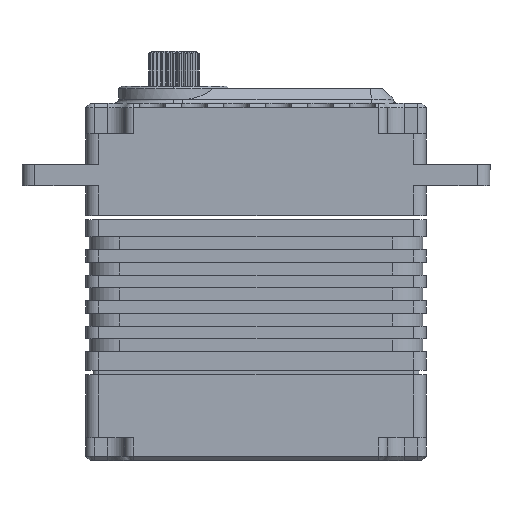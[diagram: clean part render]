
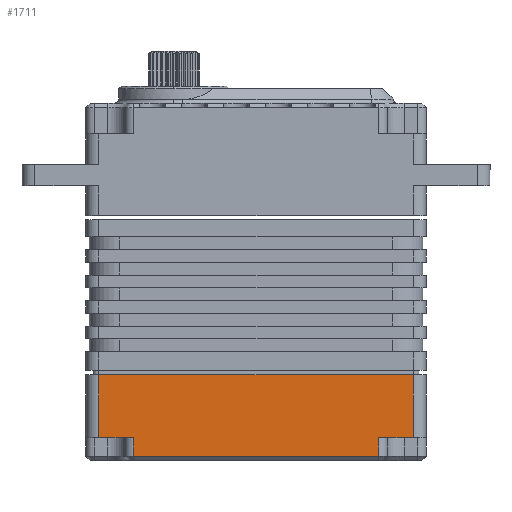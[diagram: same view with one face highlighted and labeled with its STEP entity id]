
A CAD part, front view. The second image highlights one B-rep face of the part: STEP entity #1711.
In plain terms, the highlighted planar face has unit normal (0, -1, 0).
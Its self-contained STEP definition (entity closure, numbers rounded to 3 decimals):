
#28 = CARTESIAN_POINT ( 'NONE',  ( -93.726, -10., -11.35 ) ) ;
#151 = VERTEX_POINT ( 'NONE', #9066 ) ;
#173 = CARTESIAN_POINT ( 'NONE',  ( -54.876, -10., -18.75 ) ) ;
#417 = ORIENTED_EDGE ( 'NONE', *, *, #3530, .T. ) ;
#548 = LINE ( 'NONE', #6947, #13401 ) ;
#556 = AXIS2_PLACEMENT_3D ( 'NONE', #6987, #24047, #14468 ) ;
#1313 = ORIENTED_EDGE ( 'NONE', *, *, #22604, .T. ) ;
#1711 = ADVANCED_FACE ( 'NONE', ( #15602 ), #3132, .T. ) ;
#1731 = LINE ( 'NONE', #18671, #21346 ) ;
#2037 = VERTEX_POINT ( 'NONE', #20710 ) ;
#3132 = PLANE ( 'NONE',  #556 ) ;
#3281 = LINE ( 'NONE', #20975, #13145 ) ;
#3380 = LINE ( 'NONE', #173, #13241 ) ;
#3424 = CARTESIAN_POINT ( 'NONE',  ( -93.726, -10., -21.385 ) ) ;
#3446 = DIRECTION ( 'NONE',  ( 0., 0., 1. ) ) ;
#3503 = VECTOR ( 'NONE', #20466, 1000. ) ;
#3530 = EDGE_CURVE ( 'NONE', #23591, #19773, #11594, .T. ) ;
#4731 = CARTESIAN_POINT ( 'NONE',  ( -93.726, -10., -11.35 ) ) ;
#4916 = ORIENTED_EDGE ( 'NONE', *, *, #6553, .F. ) ;
#5298 = VECTOR ( 'NONE', #14670, 1000. ) ;
#5974 = CARTESIAN_POINT ( 'NONE',  ( -56.726, -10., -11.35 ) ) ;
#6553 = EDGE_CURVE ( 'NONE', #20061, #22071, #22641, .T. ) ;
#6947 = CARTESIAN_POINT ( 'NONE',  ( -60.826, -10., -21.385 ) ) ;
#6987 = CARTESIAN_POINT ( 'NONE',  ( -54.876, -10., -21.385 ) ) ;
#8041 = EDGE_CURVE ( 'NONE', #14823, #22071, #3281, .T. ) ;
#8792 = VERTEX_POINT ( 'NONE', #23496 ) ;
#9016 = EDGE_LOOP ( 'NONE', ( #15558, #19406, #10602, #417, #20645, #1313, #20822, #4916 ) ) ;
#9066 = CARTESIAN_POINT ( 'NONE',  ( -89.626, -10., -18.75 ) ) ;
#10269 = CARTESIAN_POINT ( 'NONE',  ( -89.626, -10., -20.95 ) ) ;
#10602 = ORIENTED_EDGE ( 'NONE', *, *, #23723, .T. ) ;
#11594 = LINE ( 'NONE', #24184, #5298 ) ;
#13145 = VECTOR ( 'NONE', #17429, 1000. ) ;
#13241 = VECTOR ( 'NONE', #15443, 1000. ) ;
#13401 = VECTOR ( 'NONE', #3446, 1000. ) ;
#13716 = VECTOR ( 'NONE', #18367, 1000. ) ;
#14468 = DIRECTION ( 'NONE',  ( 0., 0., -1. ) ) ;
#14670 = DIRECTION ( 'NONE',  ( 1., 0., 0. ) ) ;
#14775 = CARTESIAN_POINT ( 'NONE',  ( -56.726, -10., -18.75 ) ) ;
#14823 = VERTEX_POINT ( 'NONE', #14775 ) ;
#15443 = DIRECTION ( 'NONE',  ( 1., 0., 0. ) ) ;
#15558 = ORIENTED_EDGE ( 'NONE', *, *, #21347, .T. ) ;
#15602 = FACE_OUTER_BOUND ( 'NONE', #9016, .T. ) ;
#17429 = DIRECTION ( 'NONE',  ( 0., 0., 1. ) ) ;
#17636 = VECTOR ( 'NONE', #19017, 1000. ) ;
#18367 = DIRECTION ( 'NONE',  ( 0., 0., -1. ) ) ;
#18671 = CARTESIAN_POINT ( 'NONE',  ( -54.876, -10., -18.75 ) ) ;
#19017 = DIRECTION ( 'NONE',  ( 1., 0., 0. ) ) ;
#19406 = ORIENTED_EDGE ( 'NONE', *, *, #24197, .T. ) ;
#19773 = VERTEX_POINT ( 'NONE', #22465 ) ;
#20061 = VERTEX_POINT ( 'NONE', #4731 ) ;
#20466 = DIRECTION ( 'NONE',  ( 0., 0., -1. ) ) ;
#20645 = ORIENTED_EDGE ( 'NONE', *, *, #20744, .T. ) ;
#20659 = DIRECTION ( 'NONE',  ( 1., 0., 0. ) ) ;
#20710 = CARTESIAN_POINT ( 'NONE',  ( -60.826, -10., -18.75 ) ) ;
#20744 = EDGE_CURVE ( 'NONE', #19773, #2037, #548, .T. ) ;
#20822 = ORIENTED_EDGE ( 'NONE', *, *, #8041, .T. ) ;
#20975 = CARTESIAN_POINT ( 'NONE',  ( -56.726, -10., -21.385 ) ) ;
#21346 = VECTOR ( 'NONE', #20659, 1000. ) ;
#21347 = EDGE_CURVE ( 'NONE', #20061, #8792, #23398, .T. ) ;
#21974 = LINE ( 'NONE', #23888, #13716 ) ;
#22071 = VERTEX_POINT ( 'NONE', #5974 ) ;
#22465 = CARTESIAN_POINT ( 'NONE',  ( -60.826, -10., -20.95 ) ) ;
#22604 = EDGE_CURVE ( 'NONE', #2037, #14823, #3380, .T. ) ;
#22641 = LINE ( 'NONE', #28, #17636 ) ;
#23398 = LINE ( 'NONE', #3424, #3503 ) ;
#23496 = CARTESIAN_POINT ( 'NONE',  ( -93.726, -10., -18.75 ) ) ;
#23591 = VERTEX_POINT ( 'NONE', #10269 ) ;
#23723 = EDGE_CURVE ( 'NONE', #151, #23591, #21974, .T. ) ;
#23888 = CARTESIAN_POINT ( 'NONE',  ( -89.626, -10., -21.385 ) ) ;
#24047 = DIRECTION ( 'NONE',  ( 0., -1., 0. ) ) ;
#24184 = CARTESIAN_POINT ( 'NONE',  ( -96.896, -10., -20.95 ) ) ;
#24197 = EDGE_CURVE ( 'NONE', #8792, #151, #1731, .T. ) ;
